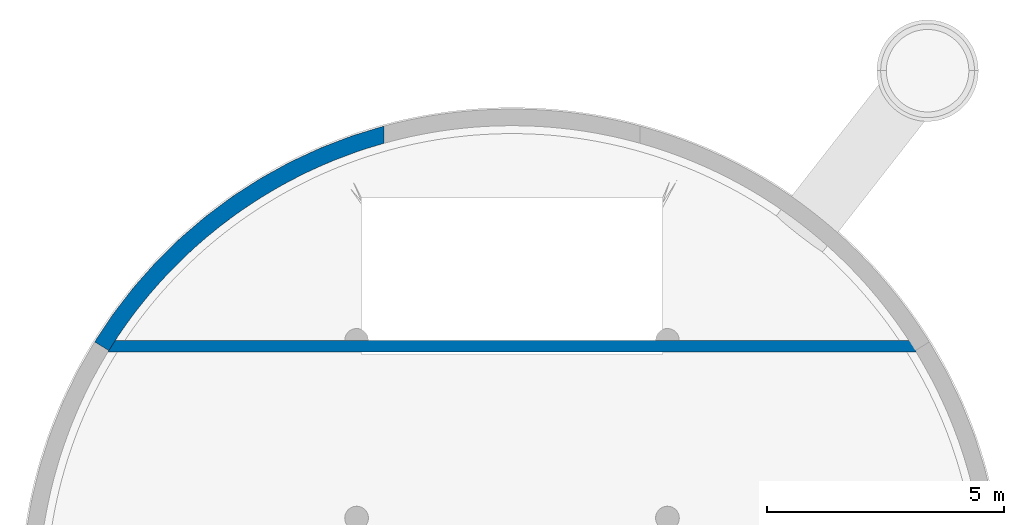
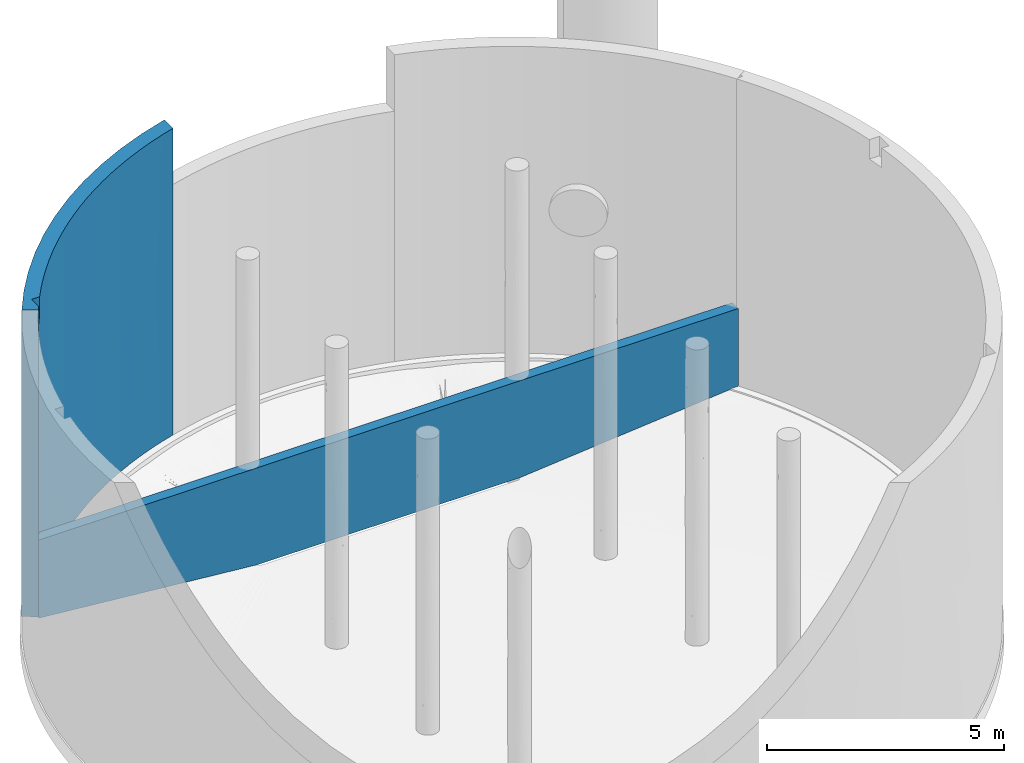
# One storey, part 4 of 5: 2 walls.
"""IFC2X3 building model written with IfcOpenShell, lengths in centimetres."""

import ifcopenshell
import ifcopenshell.guid

model = None  # the IFC model being written
_history = None  # IfcOwnerHistory: only IFC2X3 demands one
_inside = {}  # id of a spatial element -> (the spatial element, [elements in it])
_under = {}  # id of a project, library or spatial element -> (it, [spatial elements below it])
_declared = {}  # id of a project -> (the project, [libraries it declares])
_typed = {}  # id of a type object -> (the type object, [elements of that type])
_made_of = {}  # id of a material, layer set ... -> (it, [elements and type objects made of it])


def new_model(schema):
    """Start an empty IFC model of exactly this schema.

    Asked for "IFC4X3", IfcOpenShell would pick the latest addendum, in which some entities
    have other attributes; the version numbers below select the first issue.
    IFC2X3 requires an IfcOwnerHistory on every rooted entity: one is made here for all.
    """
    global model, _history
    if schema == "IFC4X3":
        model = ifcopenshell.file(schema_version=(4, 3, 0, 0))
    else:
        model = ifcopenshell.file(schema=schema)
    _inside.clear()
    _under.clear()
    _declared.clear()
    _typed.clear()
    _made_of.clear()
    _history = None
    if model.schema == "IFC2X3":
        org = make("IfcOrganization", Name="unknown")
        user = make(
            "IfcPersonAndOrganization",
            ThePerson=make("IfcPerson", FamilyName="unknown"),
            TheOrganization=org,
        )
        app = make(
            "IfcApplication",
            ApplicationDeveloper=org,
            Version="unknown",
            ApplicationFullName="unknown",
            ApplicationIdentifier="unknown",
        )
        _history = make(
            "IfcOwnerHistory",
            OwningUser=user,
            OwningApplication=app,
            ChangeAction="ADDED",
            CreationDate=0,
        )
    return model


def make(cls, **values):
    """One entity of the class cls with the attributes given. An attribute that is None is left unset."""
    return model.create_entity(
        cls, **{name: value for name, value in values.items() if value is not None}
    )


def entity(cls, *values):
    """Any entity or typed value of the class cls, its attributes in the order of the schema. None: left unset."""
    e = model.create_entity(cls)
    for i, value in enumerate(values):
        if value is not None:
            e[i] = value
    return e


def rooted(cls, **values):
    """An entity with a GlobalId (a new one), such as an element, a storey or a relation."""
    return make(cls, GlobalId=ifcopenshell.guid.new(), OwnerHistory=_history, **values)


def si_unit(unit_type, name, prefix=None):
    """IfcSIUnit, for example si_unit("LENGTHUNIT", "METRE", prefix="MILLI")."""
    return make("IfcSIUnit", UnitType=unit_type, Prefix=prefix, Name=name)


def converted_unit(unit_type, name, factor, base, dimensions=None, offset=None):
    """IfcConversionBasedUnit, such as the inch: factor (a typed value) times the base unit."""
    return make(
        "IfcConversionBasedUnit"
        if offset is None
        else "IfcConversionBasedUnitWithOffset",
        ConversionOffset=offset,
        Dimensions=None
        if dimensions is None
        else entity("IfcDimensionalExponents", *dimensions),
        UnitType=unit_type,
        Name=name,
        ConversionFactor=make(
            "IfcMeasureWithUnit", ValueComponent=factor, UnitComponent=base
        ),
    )


def derived_unit(unit_type, elements):
    """IfcDerivedUnit: a product of units, each with its exponent."""
    return make(
        "IfcDerivedUnit",
        Elements=[
            make("IfcDerivedUnitElement", Unit=unit, Exponent=power)
            for unit, power in elements
        ],
        UnitType=unit_type,
    )


def assignment(units):
    """IfcUnitAssignment: the units of a project."""
    return None if units is None else make("IfcUnitAssignment", Units=units)


def point(xyz):
    """IfcCartesianPoint."""
    return None if xyz is None else make("IfcCartesianPoint", Coordinates=xyz)


def direction(xyz):
    """IfcDirection."""
    return None if xyz is None else make("IfcDirection", DirectionRatios=xyz)


def frame(location, z_axis=None, x_axis=None):
    """IfcAxis2Placement3D, a coordinate frame: its origin and axes. An axis left out is left unset."""
    return make(
        "IfcAxis2Placement3D",
        Location=point(location),
        Axis=direction(z_axis),
        RefDirection=direction(x_axis),
    )


def origin():
    """The frame at (0, 0, 0) with its axes left unset."""
    return frame((0.0, 0.0, 0.0))


def place(relative_to, where):
    """IfcLocalPlacement: puts the frame where relative to a parent placement (None: the world)."""
    return make(
        "IfcLocalPlacement", PlacementRelTo=relative_to, RelativePlacement=where
    )


def context(
    kind, dimensions, precision=None, world=None, true_north=None, identifier=None
):
    """IfcGeometricRepresentationContext, for example the 3D "Model" context."""
    return make(
        "IfcGeometricRepresentationContext",
        ContextIdentifier=identifier,
        ContextType=kind,
        CoordinateSpaceDimension=dimensions,
        Precision=precision,
        WorldCoordinateSystem=world,
        TrueNorth=true_north,
    )


def subcontext(parent, identifier, kind, view, scale=None):
    """IfcGeometricRepresentationSubContext, for example "Body" below "Model"."""
    return make(
        "IfcGeometricRepresentationSubContext",
        ContextIdentifier=identifier,
        ContextType=kind,
        ParentContext=parent,
        TargetScale=scale,
        TargetView=view,
    )


def project(units=None, contexts=None):
    """IfcProject with its units and contexts."""
    return rooted(
        "IfcProject",
        Name="project",
        RepresentationContexts=contexts,
        UnitsInContext=assignment(units),
    )


def spatial(cls, under=None, at=None, **own):
    """A site, building, storey or space (cls), placed at a placement, below another one or the project."""
    s = rooted(cls, ObjectPlacement=at, **own)
    if under is not None:
        _under.setdefault(under.id(), (under, []))[1].append(s)
    return s


def faces_of(points, faces, orient=None, outer=None):
    """IfcFace entities. A face is a list of loops; a loop is a list of indices into points, from 0.

    orient and outer hold one flag for each loop. By default every Orientation is true, the
    first loop of a face is its IfcFaceOuterBound and the others are IfcFaceBound.
    """
    made = []
    for i, loops in enumerate(faces):
        bounds = []
        for j, loop in enumerate(loops):
            is_outer = j == 0 if outer is None else outer[i][j]
            bounds.append(
                make(
                    "IfcFaceOuterBound" if is_outer else "IfcFaceBound",
                    Bound=make("IfcPolyLoop", Polygon=[points[k] for k in loop]),
                    Orientation=True if orient is None else orient[i][j],
                )
            )
        made.append(make("IfcFace", Bounds=bounds))
    return made


def faceted_brep(points, faces, orient=None, outer=None, voids=None):
    """IfcFacetedBrep: a solid bounded by flat faces; with voids (closed shells), ...WithVoids."""
    shared = [point(p) for p in points]
    hull = make("IfcClosedShell", CfsFaces=faces_of(shared, faces, orient, outer))
    if voids is None:
        return make("IfcFacetedBrep", Outer=hull)
    return make(
        "IfcFacetedBrepWithVoids",
        Outer=hull,
        Voids=[
            make(cls, CfsFaces=faces_of(shared, fs, o, b)) for cls, fs, o, b in voids
        ],
    )


def shape(context_of_items, identifier, shape_type, items):
    """IfcShapeRepresentation: the items that make up one representation, for example the "Body"."""
    return make(
        "IfcShapeRepresentation",
        ContextOfItems=context_of_items,
        RepresentationIdentifier=identifier,
        RepresentationType=shape_type,
        Items=items,
    )


def material(Name=None, Category=None):
    """IfcMaterial."""
    return make("IfcMaterial", Name=Name, Category=Category)


def layer(
    of_material, thickness, ventilated=None, Name=None, Category=None, Priority=None
):
    """IfcMaterialLayer: one layer of a wall or slab, of a material (None: an air gap)."""
    return make(
        "IfcMaterialLayer",
        Material=of_material,
        LayerThickness=thickness,
        IsVentilated=ventilated,
        Name=Name,
        Category=Category,
        Priority=Priority,
    )


def layer_set(layers, Name=None):
    """IfcMaterialLayerSet."""
    return make("IfcMaterialLayerSet", MaterialLayers=layers, LayerSetName=Name)


def made_of(thing, what):
    """Note that an element or type object is made of a material, layer set ...; save() writes the relation."""
    if what is not None:
        _made_of.setdefault(what.id(), (what, []))[1].append(thing)
    return thing


def type_object(cls, material=None, **own):
    """A type object (cls), such as IfcWallType, which elements share."""
    return made_of(rooted(cls, **own), material)


def element(
    cls,
    number,
    at=None,
    inside=None,
    cuts=None,
    type_object=None,
    material=None,
    context=None,
    identifier="Body",
    shape_type=None,
    held_by="IfcProductDefinitionShape",
    body=None,
    shapes=None,
    **own,
):
    """One element of the class cls, such as IfcWall. Its Tag is "e" and its number.

    at: its placement. inside: the storey or other place that contains it. cuts: it is an
    opening in that element (IfcRelVoidsElement). A single representation is given by context,
    identifier, shape_type and body (its items); several are given by shapes. held_by: the class
    of the entity that holds the representations. save() writes the other relations.
    """
    e = rooted(cls, Tag="e%d" % number, ObjectPlacement=at, **own)
    if body is not None:
        shapes = [shape(context, identifier, shape_type, body)]
    if shapes is not None:
        e.Representation = make(held_by, Representations=shapes)
    if inside is not None:
        _inside.setdefault(inside.id(), (inside, []))[1].append(e)
    if cuts is not None:
        rooted(
            "IfcRelVoidsElement", RelatingBuildingElement=cuts, RelatedOpeningElement=e
        )
    if type_object is not None:
        _typed.setdefault(type_object.id(), (type_object, []))[1].append(e)
    return made_of(e, material)


def aggregate(whole, parts):
    """IfcRelAggregates: a whole, such as a stair, and the parts it consists of."""
    return rooted("IfcRelAggregates", RelatingObject=whole, RelatedObjects=parts)


def save(model, path):
    """Write the relations noted so far, then the file.

    IfcRelAggregates (storeys below a building ...), IfcRelContainedInSpatialStructure (elements
    in a storey), IfcRelDefinesByType, IfcRelAssociatesMaterial and IfcRelDeclares: one each for
    every whole, place, type object, material and project.
    """
    for whole, parts in _under.values():
        aggregate(whole, parts)
    for where, things in _inside.values():
        rooted(
            "IfcRelContainedInSpatialStructure",
            RelatedElements=things,
            RelatingStructure=where,
        )
    for kind, things in _typed.values():
        rooted("IfcRelDefinesByType", RelatedObjects=things, RelatingType=kind)
    for what, things in _made_of.values():
        rooted("IfcRelAssociatesMaterial", RelatedObjects=things, RelatingMaterial=what)
    for by, libraries in _declared.values():
        rooted("IfcRelDeclares", RelatingContext=by, RelatedDefinitions=libraries)
    model.write(path)


model = new_model("IFC2X3")

# Units and contexts
model_context = context("Model", 3, precision=0.001, world=origin(), true_north=direction((6.12303176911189e-17, 1.0)))
body_context = subcontext(model_context, "Body", "Model", "MODEL_VIEW")
ifc_project = project(units=[si_unit("LENGTHUNIT", "METRE", prefix="CENTI"), si_unit("AREAUNIT", "SQUARE_METRE"), si_unit("VOLUMEUNIT", "CUBIC_METRE"), converted_unit("PLANEANGLEUNIT", "DEGREE", entity("IfcRatioMeasure", 0.0174532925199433), si_unit("PLANEANGLEUNIT", "RADIAN"), dimensions=[0, 0, 0, 0, 0, 0, 0]), si_unit("MASSUNIT", "GRAM", prefix="KILO"), derived_unit("MASSDENSITYUNIT", [(si_unit("MASSUNIT", "GRAM", prefix="KILO"), 1), (si_unit("LENGTHUNIT", "METRE"), -3)]), si_unit("TIMEUNIT", "SECOND"), si_unit("FREQUENCYUNIT", "HERTZ"), si_unit("THERMODYNAMICTEMPERATUREUNIT", "DEGREE_CELSIUS"), derived_unit("THERMALTRANSMITTANCEUNIT", [(si_unit("MASSUNIT", "GRAM", prefix="KILO"), 1), (si_unit("THERMODYNAMICTEMPERATUREUNIT", "KELVIN"), -1), (si_unit("TIMEUNIT", "SECOND"), -3)]), derived_unit("VOLUMETRICFLOWRATEUNIT", [(si_unit("LENGTHUNIT", "METRE"), 3), (si_unit("TIMEUNIT", "SECOND"), -1)]), si_unit("ELECTRICCURRENTUNIT", "AMPERE"), si_unit("ELECTRICVOLTAGEUNIT", "VOLT"), si_unit("POWERUNIT", "WATT"), si_unit("FORCEUNIT", "NEWTON", prefix="KILO"), si_unit("ILLUMINANCEUNIT", "LUX"), si_unit("LUMINOUSFLUXUNIT", "LUMEN"), si_unit("LUMINOUSINTENSITYUNIT", "CANDELA"), derived_unit("USERDEFINED", [(si_unit("MASSUNIT", "GRAM", prefix="KILO"), -1), (si_unit("LENGTHUNIT", "METRE"), -2), (si_unit("TIMEUNIT", "SECOND"), 3), (si_unit("LUMINOUSFLUXUNIT", "LUMEN"), 1)]), derived_unit("LINEARVELOCITYUNIT", [(si_unit("LENGTHUNIT", "METRE"), 1), (si_unit("TIMEUNIT", "SECOND"), -1)]), si_unit("PRESSUREUNIT", "PASCAL"), derived_unit("USERDEFINED", [(si_unit("LENGTHUNIT", "METRE"), -2), (si_unit("MASSUNIT", "GRAM", prefix="KILO"), 1), (si_unit("TIMEUNIT", "SECOND"), -2)])], contexts=[model_context])

# Site, building, storey
site_placement = place(None, origin())
site = spatial("IfcSite", under=ifc_project, at=site_placement, Name="Default", CompositionType="ELEMENT")
building_placement = place(site_placement, origin())
building = spatial("IfcBuilding", under=site, at=building_placement, CompositionType="ELEMENT")
storey_placement = place(building_placement, frame((0.0, 0.0, -870.0)))
storey = spatial("IfcBuildingStorey", under=building, at=storey_placement, Name="Niveau haut radier", CompositionType="ELEMENT", Elevation=-870.000000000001)

# Walls
ifc_material = material(Name="Mur par défaut")
ifc_layer_1 = layer(ifc_material, 35.0)
ifc_layer_set_1 = layer_set([ifc_layer_1], Name="Mur de base:Générique  - 350 mm 2")
wall_type_1 = type_object("IfcWallType", Name="Mur de base:Générique  - 350 mm 2", PredefinedType="NOTDEFINED", material=ifc_layer_set_1)
wall_1_placement = place(storey_placement, frame((-865.803672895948, 534.499999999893, 0.0)))
element("IfcWall", 1, at=wall_1_placement, inside=storey, type_object=wall_type_1, material=ifc_material, Name="Mur de base:Générique  - 350 mm 2", ObjectType="Mur de base:Générique  - 350 mm 2", context=body_context, shape_type="Brep", body=[
    faceted_brep([(128.528318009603, 141.092370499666, 790.0), (152.429541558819, 166.283382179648, 790.0), (177.190993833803, 190.629352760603, 790.0), (202.782816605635, 214.100924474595, 790.0), (229.174150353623, 236.669793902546, 790.0), (256.333171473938, 258.308746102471, 790.0), (284.227130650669, 278.991687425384, 790.0), (312.822392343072, 298.693676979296, 790.0), (342.084475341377, 317.390956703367, 790.0), (371.978094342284, 335.060980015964, 790.0), (402.467202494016, 351.682439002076, 790.0), (433.515034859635, 367.235290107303, 790.0), (465.084152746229, 381.700778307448, 790.0), (497.13648884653, 395.061459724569, 790.0), (529.633393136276, 407.301222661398, 790.0), (562.535675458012, 418.405305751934, 790.0), (595.803672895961, 428.360322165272, 790.0), (595.80367289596, 464.662149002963, 790.0), (528.021327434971, 443.829232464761, 790.0), (461.824572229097, 418.403922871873, 790.0), (397.524142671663, 388.505569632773, 790.0), (335.421872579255, 354.274519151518, 790.0), (275.80927734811, 315.871456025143, 790.0), (218.96618554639, 273.476648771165, 790.0), (165.159425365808, 227.289103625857, 790.0), (114.641572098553, 177.525630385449, 790.0), (67.6497625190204, 124.419824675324, 790.0), (24.4045817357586, 68.2209714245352, 790.0), (-14.8909722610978, 9.19287469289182, 790.0), (14.8909722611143, -9.19287469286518, 790.0), (18.7619011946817, -2.97367234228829, 790.0), (22.6778791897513, 3.21637132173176, 790.0), (22.6778791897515, 32.5000000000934, 790.0), (42.0858814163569, 32.5000000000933, 790.0), (62.2688353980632, 60.757729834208, 790.0), (83.4207687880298, 88.2977130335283, 790.0), (105.516144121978, 115.086694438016, 790.0), (528.021327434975, 443.829232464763, 0.0), (595.80367289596, 464.662149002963, 0.0), (595.803672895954, 428.360322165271, 0.0), (561.852627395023, 418.187651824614, 0.0), (528.283392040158, 406.818256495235, 0.0), (495.138135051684, 394.266417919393, 0.0), (462.458492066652, 380.547903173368, 0.0), (430.28551383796, 365.679944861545, 0.0), (398.65961466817, 349.681219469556, 0.0), (367.620521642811, 332.571823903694, 0.0), (337.207224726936, 314.373250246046, 0.0), (307.457927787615, 295.108358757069, 0.0), (278.410000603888, 274.801349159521, 0.0), (250.09993192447, 253.477730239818, 0.0), (222.563283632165, 231.164287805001, 0.0), (195.834646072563, 207.889051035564, 0.0), (169.947594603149, 183.681257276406, 0.0), (144.934647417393, 158.571315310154, 0.0), (120.827224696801, 132.590767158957, 0.0), (97.6556091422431, 105.77224846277, 0.0), (75.4489079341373, 78.1494474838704, 0.0), (54.2350161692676, 49.7570627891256, 0.0), (34.0405818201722, 20.6307596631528, 0.0), (14.8909722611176, -9.19287469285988, 0.0), (-14.8909722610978, 9.19287469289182, 0.0), (24.4045817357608, 68.2209714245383, 0.0), (67.6497625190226, 124.419824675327, 0.0), (114.641572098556, 177.525630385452, 0.0), (165.159425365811, 227.289103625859, 0.0), (218.966185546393, 273.476648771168, 0.0), (275.809277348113, 315.871456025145, 0.0), (335.421872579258, 354.27451915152, 0.0), (397.524142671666, 388.505569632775, 0.0), (461.824572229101, 418.403922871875, 0.0), (550.714102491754, 451.371980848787, 386.794148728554), (13.974791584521, 53.3882180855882, 429.48357645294), (-14.8909722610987, 9.19287469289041, 355.228377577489), (494.705138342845, 431.683666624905, 395.0), (429.418226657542, 404.005589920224, 395.0), (595.80367289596, 464.662149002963, 645.0), (45.5457323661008, 96.690867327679, 395.0), (366.17975983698, 371.922057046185, 395.0), (305.286586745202, 335.583671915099, 395.0), (247.024547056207, 295.161011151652, 395.0), (191.667129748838, 250.843823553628, 395.0), (90.690724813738, 151.375293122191, 395.0), (139.474189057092, 202.840139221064, 395.0), (72.7252508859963, 74.6195420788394, 404.023901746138), (177.185589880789, 190.624220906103, 365.600653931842), (22.6778791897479, 3.21637132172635, 740.0), (140.369575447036, 153.791631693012, 403.261055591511), (256.326328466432, 258.303485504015, 367.920793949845), (42.085881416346, 32.5000000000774, 740.0), (215.88051184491, 225.4999241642, 402.20172416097), (105.512298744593, 115.082193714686, 362.686823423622), (342.076377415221, 317.385978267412, 369.6500586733), (298.43923497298, 288.966814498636, 400.845926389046), (433.505904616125, 367.230913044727, 370.789280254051), (387.150494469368, 343.50406307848, 399.193686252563), (481.052321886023, 388.520258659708, 397.245032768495), (14.890972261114, -9.19287469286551, 592.5), (42.790989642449, 33.522995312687, 348.798238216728), (32.2532742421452, 17.9434205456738, 740.0), (14.8909722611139, -9.19287469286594, 395.0), (546.036331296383, 412.996093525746, 395.781268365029), (595.803672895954, 428.360322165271, 645.0), (22.6778791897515, 32.5000000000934, 740.0)], [[[0, 1, 2, 3, 4, 5, 6, 7, 8, 9, 10, 11, 12, 13, 14, 15, 16, 17, 18, 19, 20, 21, 22, 23, 24, 25, 26, 27, 28, 29, 30, 31, 32, 33, 34, 35, 36]], [[37, 38, 39, 40, 41, 42, 43, 44, 45, 46, 47, 48, 49, 50, 51, 52, 53, 54, 55, 56, 57, 58, 59, 60, 61, 62, 63, 64, 65, 66, 67, 68, 69, 70]], [[38, 37, 71]], [[28, 72, 61, 73]], [[71, 37, 74]], [[75, 70, 69]], [[38, 71, 76]], [[18, 71, 74]], [[37, 70, 74]], [[62, 72, 77]], [[78, 69, 68]], [[78, 75, 69]], [[18, 17, 76]], [[71, 18, 76]], [[19, 75, 20]], [[18, 74, 19]], [[75, 78, 20]], [[22, 21, 79]], [[75, 74, 70]], [[75, 19, 74]], [[79, 78, 68]], [[80, 79, 67]], [[81, 66, 65]], [[72, 27, 77]], [[25, 82, 26]], [[64, 83, 65]], [[77, 63, 62]], [[26, 77, 27]], [[61, 72, 62]], [[64, 63, 82]], [[77, 82, 63]], [[28, 27, 72]], [[66, 80, 67]], [[23, 80, 81]], [[78, 79, 21]], [[22, 79, 80]], [[23, 81, 24]], [[77, 26, 82]], [[83, 81, 65]], [[83, 24, 81]], [[67, 79, 68]], [[82, 25, 83]], [[81, 80, 66]], [[20, 78, 21]], [[24, 83, 25]], [[22, 80, 23]], [[82, 83, 64]], [[57, 84, 58]], [[85, 2, 1]], [[86, 31, 30]], [[86, 30, 29]], [[54, 87, 55]], [[88, 5, 4]], [[84, 35, 34]], [[89, 34, 33]], [[51, 90, 52]], [[91, 36, 35]], [[92, 8, 7]], [[48, 93, 49]], [[87, 1, 0]], [[0, 91, 87]], [[94, 11, 10]], [[45, 95, 46]], [[90, 4, 3]], [[3, 85, 90]], [[14, 13, 96]], [[85, 3, 2]], [[42, 96, 43]], [[91, 0, 36]], [[97, 98, 99]], [[86, 97, 99]], [[98, 84, 89]], [[89, 99, 98]], [[100, 60, 59]], [[100, 59, 98]], [[96, 94, 43]], [[34, 89, 84]], [[29, 97, 86]], [[58, 98, 59]], [[56, 84, 57]], [[56, 91, 84]], [[91, 56, 55]], [[87, 54, 85]], [[54, 53, 85]], [[53, 52, 85]], [[88, 90, 51]], [[10, 95, 94]], [[15, 101, 102]], [[40, 101, 41]], [[93, 7, 6]], [[6, 88, 93]], [[98, 97, 100]], [[84, 98, 58]], [[95, 10, 9]], [[9, 92, 95]], [[35, 84, 91]], [[92, 9, 8]], [[87, 91, 55]], [[1, 87, 85]], [[96, 13, 12]], [[12, 94, 96]], [[90, 85, 52]], [[4, 90, 88]], [[102, 16, 15]], [[101, 15, 14]], [[93, 88, 49]], [[14, 96, 101]], [[95, 92, 46]], [[94, 12, 11]], [[50, 49, 88]], [[93, 48, 92]], [[47, 92, 48]], [[46, 92, 47]], [[88, 51, 50]], [[44, 94, 45]], [[45, 94, 95]], [[44, 43, 94]], [[96, 42, 41]], [[101, 96, 41]], [[101, 40, 39]], [[7, 93, 92]], [[102, 101, 39]], [[5, 88, 6]], [[28, 73, 61, 60, 100, 97, 29]], [[39, 38, 76, 17, 16, 102]], [[86, 103, 32, 31]], [[89, 33, 32, 103]], [[99, 89, 103, 86]]]),
])
ifc_layer_2 = layer(ifc_material, 25.0)
ifc_layer_set_2 = layer_set([ifc_layer_2], Name="Mur de base:Voile béton ep. 25cm")
wall_type_2 = type_object("IfcWallType", Name="Mur de base:Voile béton ep. 25cm", PredefinedType="NOTDEFINED", material=ifc_layer_set_2)
wall_2_placement = place(storey_placement, frame((-852.945484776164, 534.499999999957, -50.0)))
element("IfcWall", 2, at=wall_2_placement, inside=storey, type_object=wall_type_2, material=ifc_material, Name="Mur de base:Voile béton ep. 25cm", ObjectType="Mur de base:Voile béton ep. 25cm", context=body_context, shape_type="Brep", body=[
    faceted_brep([(535.445484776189, -12.5, 0.0), (1170.44548477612, -12.5, 0.0), (1705.89096955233, -12.5, 50.0), (1705.89096955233, -12.5, 250.0), (0.0, -12.5, 250.0), (0.0, -12.5000000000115, 162.707388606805), (0.0, -12.5, 48.8274574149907), (1705.89096955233, 12.5, 50.0), (1170.44548477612, 12.5, 0.0), (535.445484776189, 12.5, 0.0), (15.8128787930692, 12.5, 47.38547557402), (15.8128787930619, 12.4999999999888, 134.678086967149), (15.8128787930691, 12.5, 250.0), (499.945484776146, 12.5, 250.0), (549.945484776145, 12.5, 250.0), (1155.94548477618, 12.5, 250.0), (1205.94548477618, 12.5, 250.0), (1705.89096955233, 12.5, 250.0), (7.43112702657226, -0.547314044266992, 149.057448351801), (7.8139931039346, 0.0584736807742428, 250.0), (7.8139931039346, 0.0584736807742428, 48.1148967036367)], [[[0, 1, 2, 3, 4, 5, 6]], [[7, 8, 9, 10, 11, 12, 13, 14, 15, 16, 17]], [[18, 12, 11]], [[5, 4, 19]], [[18, 5, 19]], [[11, 10, 20]], [[18, 6, 5]], [[11, 20, 18]], [[18, 19, 12]], [[6, 18, 20]], [[3, 17, 16, 15, 14, 13, 12, 19, 4]], [[0, 6, 20, 10, 9]], [[1, 0, 9, 8]], [[2, 1, 8, 7]], [[3, 2, 7, 17]]]),
])

save(model, "model.ifc")
